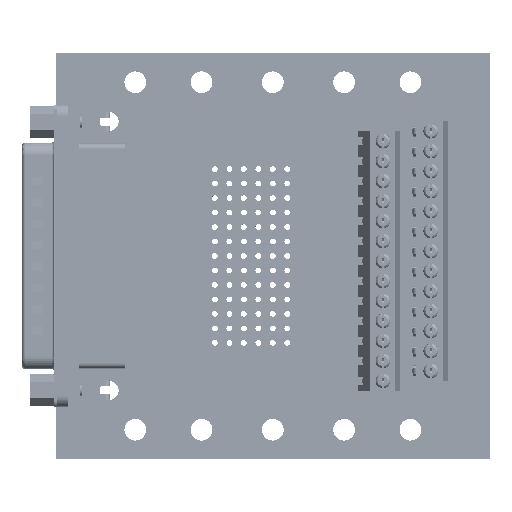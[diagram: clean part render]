
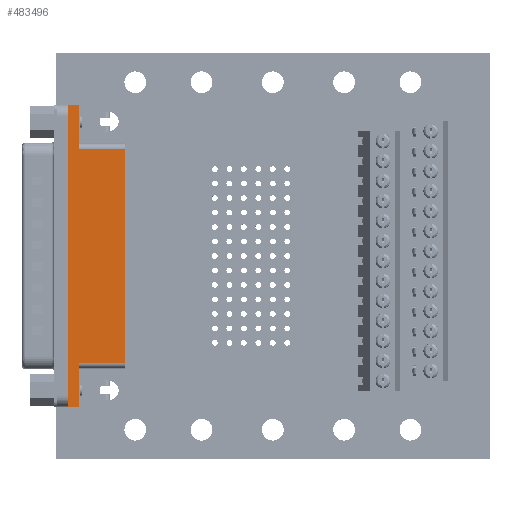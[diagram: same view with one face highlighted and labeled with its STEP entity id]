
A CAD part, top view. The second image highlights one B-rep face of the part: STEP entity #483496.
In plain terms, the highlighted planar face has unit normal (0, 0, 1) as drawn and (0, 1, 0) by its records, which use the part's own axes.
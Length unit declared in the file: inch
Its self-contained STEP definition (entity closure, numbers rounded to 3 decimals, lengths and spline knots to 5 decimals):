
#1265 = DIRECTION ( 'NONE',  ( -1., 0., 0. ) ) ;
#3214 = VERTEX_POINT ( 'NONE', #248835 ) ;
#3931 = CARTESIAN_POINT ( 'NONE',  ( -1.04409, 0.16142, 0.07874 ) ) ;
#9049 = VERTEX_POINT ( 'NONE', #195938 ) ;
#36391 = CARTESIAN_POINT ( 'NONE',  ( 1.04409, 0.16142, -0.09055 ) ) ;
#44795 = VERTEX_POINT ( 'NONE', #432732 ) ;
#47171 = CARTESIAN_POINT ( 'NONE',  ( -1.04409, 0.16142, -0.09055 ) ) ;
#84748 = CARTESIAN_POINT ( 'NONE',  ( 0.73819, 0.16142, 0.07874 ) ) ;
#89117 = ORIENTED_EDGE ( 'NONE', *, *, #502545, .T. ) ;
#90572 = ORIENTED_EDGE ( 'NONE', *, *, #149813, .F. ) ;
#95024 = FACE_OUTER_BOUND ( 'NONE', #566000, .T. ) ;
#104187 = VERTEX_POINT ( 'NONE', #593454 ) ;
#118623 = ORIENTED_EDGE ( 'NONE', *, *, #289522, .T. ) ;
#122131 = CARTESIAN_POINT ( 'NONE',  ( -1.04409, 0.16142, 0.15157 ) ) ;
#129565 = VECTOR ( 'NONE', #416764, 39.37008 ) ;
#136842 = ORIENTED_EDGE ( 'NONE', *, *, #206592, .F. ) ;
#144427 = CARTESIAN_POINT ( 'NONE',  ( 1.04409, 0.16142, 0.07874 ) ) ;
#149813 = EDGE_CURVE ( 'NONE', #251470, #9049, #181190, .T. ) ;
#181190 = LINE ( 'NONE', #36391, #317771 ) ;
#195938 = CARTESIAN_POINT ( 'NONE',  ( 1.04409, 0.16142, 0.15157 ) ) ;
#206592 = EDGE_CURVE ( 'NONE', #238924, #251470, #421189, .T. ) ;
#208733 = VERTEX_POINT ( 'NONE', #122131 ) ;
#232546 = CARTESIAN_POINT ( 'NONE',  ( 0.73819, 0.16142, 0.15157 ) ) ;
#235125 = CARTESIAN_POINT ( 'NONE',  ( 0.73819, 0.16142, 0.15157 ) ) ;
#238924 = VERTEX_POINT ( 'NONE', #3931 ) ;
#248835 = CARTESIAN_POINT ( 'NONE',  ( -0.73819, 0.16142, 0.47244 ) ) ;
#251470 = VERTEX_POINT ( 'NONE', #144427 ) ;
#256604 = VERTEX_POINT ( 'NONE', #490677 ) ;
#265630 = LINE ( 'NONE', #516821, #351566 ) ;
#278206 = CARTESIAN_POINT ( 'NONE',  ( 0., 0.16142, 0.47244 ) ) ;
#282837 = VECTOR ( 'NONE', #513999, 39.37008 ) ;
#284586 = VECTOR ( 'NONE', #362907, 39.37008 ) ;
#289522 = EDGE_CURVE ( 'NONE', #256604, #9049, #326145, .T. ) ;
#305787 = EDGE_CURVE ( 'NONE', #104187, #3214, #460083, .T. ) ;
#313589 = PLANE ( 'NONE',  #397877 ) ;
#316786 = VECTOR ( 'NONE', #559500, 39.37008 ) ;
#317771 = VECTOR ( 'NONE', #588360, 39.37008 ) ;
#318696 = VECTOR ( 'NONE', #366304, 39.37008 ) ;
#326145 = LINE ( 'NONE', #235125, #282837 ) ;
#330258 = ORIENTED_EDGE ( 'NONE', *, *, #514716, .F. ) ;
#351566 = VECTOR ( 'NONE', #468720, 39.37008 ) ;
#361724 = EDGE_CURVE ( 'NONE', #44795, #3214, #529254, .T. ) ;
#362907 = DIRECTION ( 'NONE',  ( 1., 0., 0. ) ) ;
#366304 = DIRECTION ( 'NONE',  ( 0., 0., -1. ) ) ;
#397877 = AXIS2_PLACEMENT_3D ( 'NONE', #84748, #399843, #546087 ) ;
#399843 = DIRECTION ( 'NONE',  ( 0., 1., 0. ) ) ;
#416764 = DIRECTION ( 'NONE',  ( 0., 0., 1. ) ) ;
#419412 = LINE ( 'NONE', #47171, #318696 ) ;
#421189 = LINE ( 'NONE', #595635, #284586 ) ;
#432732 = CARTESIAN_POINT ( 'NONE',  ( 0.73819, 0.16142, 0.47244 ) ) ;
#438233 = ORIENTED_EDGE ( 'NONE', *, *, #552725, .T. ) ;
#460026 = LINE ( 'NONE', #232546, #316786 ) ;
#460083 = LINE ( 'NONE', #508926, #129565 ) ;
#468720 = DIRECTION ( 'NONE',  ( 0., 0., -1. ) ) ;
#483496 = ADVANCED_FACE ( 'NONE', ( #95024 ), #313589, .T. ) ;
#490677 = CARTESIAN_POINT ( 'NONE',  ( 0.73819, 0.16142, 0.15157 ) ) ;
#502545 = EDGE_CURVE ( 'NONE', #44795, #256604, #265630, .T. ) ;
#507438 = VECTOR ( 'NONE', #1265, 39.37008 ) ;
#508926 = CARTESIAN_POINT ( 'NONE',  ( -0.73819, 0.16142, 0.07874 ) ) ;
#513999 = DIRECTION ( 'NONE',  ( 1., 0., 0. ) ) ;
#514716 = EDGE_CURVE ( 'NONE', #208733, #238924, #419412, .T. ) ;
#516821 = CARTESIAN_POINT ( 'NONE',  ( 0.73819, 0.16142, 0.07874 ) ) ;
#529254 = LINE ( 'NONE', #278206, #507438 ) ;
#545935 = ORIENTED_EDGE ( 'NONE', *, *, #361724, .F. ) ;
#546087 = DIRECTION ( 'NONE',  ( 0., 0., 1. ) ) ;
#552725 = EDGE_CURVE ( 'NONE', #208733, #104187, #460026, .T. ) ;
#559338 = ORIENTED_EDGE ( 'NONE', *, *, #305787, .T. ) ;
#559500 = DIRECTION ( 'NONE',  ( 1., 0., 0. ) ) ;
#566000 = EDGE_LOOP ( 'NONE', ( #118623, #90572, #136842, #330258, #438233, #559338, #545935, #89117 ) ) ;
#588360 = DIRECTION ( 'NONE',  ( 0., 0., 1. ) ) ;
#593454 = CARTESIAN_POINT ( 'NONE',  ( -0.73819, 0.16142, 0.15157 ) ) ;
#595635 = CARTESIAN_POINT ( 'NONE',  ( 0., 0.16142, 0.07874 ) ) ;
